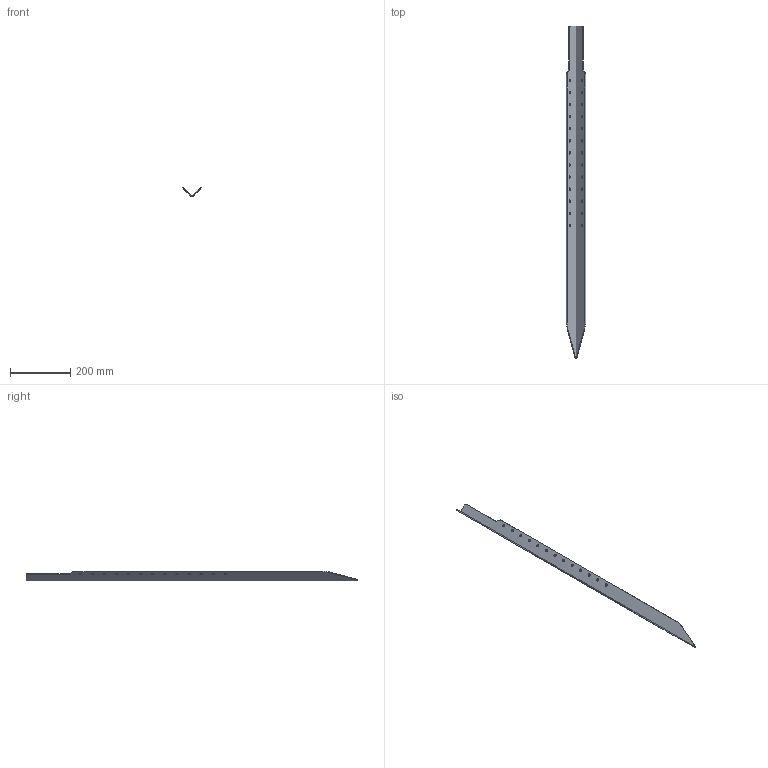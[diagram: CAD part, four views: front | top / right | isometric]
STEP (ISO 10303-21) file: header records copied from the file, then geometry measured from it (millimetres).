
FILE_DESCRIPTION (( 'STEP AP214' ), '1' );
FILE_NAME ('MONO_038-p202_02 (Option 2 - Equal Angle).STEP', '2026-03-24T00:18:27', ( '' ), ( '' ), 'SwSTEP 2.0', 'SolidWorks 2024', '' );
FILE_SCHEMA (( 'AUTOMOTIVE_DESIGN' ));
Length unit declared in the file: millimetre
Products named in the file (1): MONO_038-p202_02 (Option 2 - Equal Angle)
Bounding box: 63.64 x 1100 x 33.11 mm (x, y, z)
Volume: 258282.6 mm3; surface area: 180692.3 mm2
Topology: 1 solids, 1 shells, 51 faces, 172 edges, 123 vertices
Faces by surface type: cylinder 37, plane 14
Full cylindrical faces by diameter (mm): 8 x26
Entity records: 1705 total; most frequent: DIRECTION 295, CARTESIAN_POINT 278, ORIENTED_EDGE 240, EDGE_LOOP 129, AXIS2_PLACEMENT_3D 126, EDGE_CURVE 120, VERTEX_POINT 97, FACE_OUTER_BOUND 77
